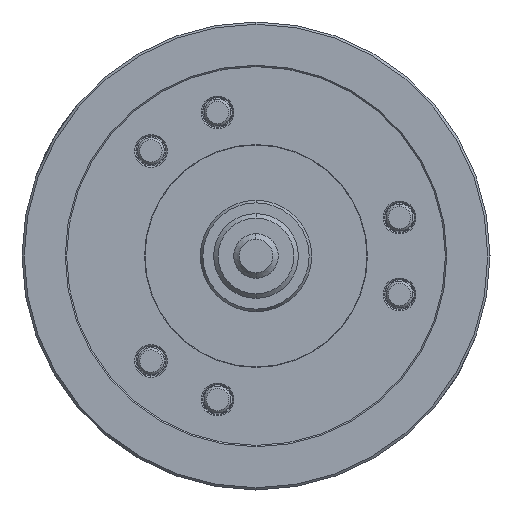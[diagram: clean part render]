
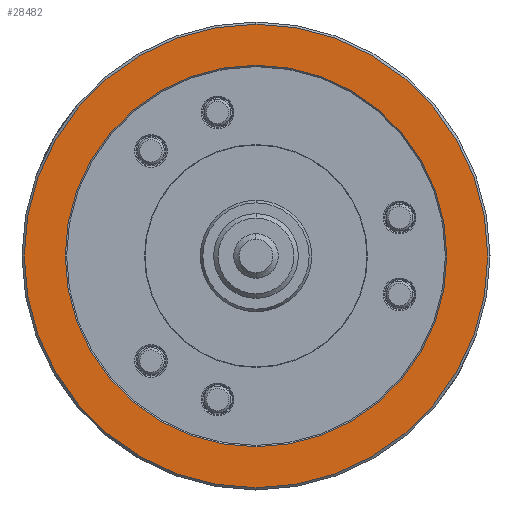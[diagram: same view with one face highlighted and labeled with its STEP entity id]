
A CAD part, left-side view. The second image highlights one B-rep face of the part: STEP entity #28482.
In plain terms, the highlighted planar face has unit normal (-1, 0, 0).
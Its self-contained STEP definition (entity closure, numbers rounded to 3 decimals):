
#228 = EDGE_CURVE ( 'NONE', #39061, #5368, #13902, .T. ) ;
#618 = DIRECTION ( 'NONE',  ( 1., 0., 0. ) ) ;
#1721 = VERTEX_POINT ( 'NONE', #15457 ) ;
#2589 = ORIENTED_EDGE ( 'NONE', *, *, #18188, .F. ) ;
#2932 = DIRECTION ( 'NONE',  ( 0., 0., -1. ) ) ;
#3894 = PLANE ( 'NONE',  #14453 ) ;
#4897 = CARTESIAN_POINT ( 'NONE',  ( -90., 0., -104. ) ) ;
#5368 = VERTEX_POINT ( 'NONE', #4897 ) ;
#7371 = EDGE_CURVE ( 'NONE', #28886, #1721, #14196, .T. ) ;
#9378 = EDGE_CURVE ( 'NONE', #1721, #28886, #29549, .T. ) ;
#9697 = EDGE_LOOP ( 'NONE', ( #23830, #38240 ) ) ;
#9839 = FACE_OUTER_BOUND ( 'NONE', #27883, .T. ) ;
#13218 = DIRECTION ( 'NONE',  ( 0., 0., 1. ) ) ;
#13270 = DIRECTION ( 'NONE',  ( 1., 0., 0. ) ) ;
#13506 = DIRECTION ( 'NONE',  ( 1., 0., 0. ) ) ;
#13902 = CIRCLE ( 'NONE', #34477, 104. ) ;
#14194 = CARTESIAN_POINT ( 'NONE',  ( -90., 0., 0. ) ) ;
#14196 = CIRCLE ( 'NONE', #22716, 85.6 ) ;
#14453 = AXIS2_PLACEMENT_3D ( 'NONE', #28329, #31696, #13218 ) ;
#15216 = AXIS2_PLACEMENT_3D ( 'NONE', #14194, #35763, #17301 ) ;
#15457 = CARTESIAN_POINT ( 'NONE',  ( -90., 0., -85.6 ) ) ;
#17094 = FACE_BOUND ( 'NONE', #9697, .T. ) ;
#17301 = DIRECTION ( 'NONE',  ( 0., 0., -1. ) ) ;
#18188 = EDGE_CURVE ( 'NONE', #5368, #39061, #18257, .T. ) ;
#18257 = CIRCLE ( 'NONE', #15216, 104. ) ;
#18272 = CARTESIAN_POINT ( 'NONE',  ( -90., 0., 104. ) ) ;
#18326 = ORIENTED_EDGE ( 'NONE', *, *, #228, .F. ) ;
#22716 = AXIS2_PLACEMENT_3D ( 'NONE', #31976, #13506, #35083 ) ;
#23830 = ORIENTED_EDGE ( 'NONE', *, *, #7371, .T. ) ;
#27883 = EDGE_LOOP ( 'NONE', ( #2589, #18326 ) ) ;
#28329 = CARTESIAN_POINT ( 'NONE',  ( -90., 104., 0. ) ) ;
#28442 = AXIS2_PLACEMENT_3D ( 'NONE', #31757, #13270, #34868 ) ;
#28482 = ADVANCED_FACE ( 'NONE', ( #17094, #9839 ), #3894, .T. ) ;
#28886 = VERTEX_POINT ( 'NONE', #36787 ) ;
#29549 = CIRCLE ( 'NONE', #28442, 85.6 ) ;
#31696 = DIRECTION ( 'NONE',  ( -1., 0., 0. ) ) ;
#31757 = CARTESIAN_POINT ( 'NONE',  ( -90., 0., 0. ) ) ;
#31976 = CARTESIAN_POINT ( 'NONE',  ( -90., 0., 0. ) ) ;
#33581 = CARTESIAN_POINT ( 'NONE',  ( -90., 0., 0. ) ) ;
#34477 = AXIS2_PLACEMENT_3D ( 'NONE', #33581, #618, #2932 ) ;
#34868 = DIRECTION ( 'NONE',  ( 0., 0., -1. ) ) ;
#35083 = DIRECTION ( 'NONE',  ( 0., 0., -1. ) ) ;
#35763 = DIRECTION ( 'NONE',  ( 1., 0., 0. ) ) ;
#36787 = CARTESIAN_POINT ( 'NONE',  ( -90., 0., 85.6 ) ) ;
#38240 = ORIENTED_EDGE ( 'NONE', *, *, #9378, .T. ) ;
#39061 = VERTEX_POINT ( 'NONE', #18272 ) ;
